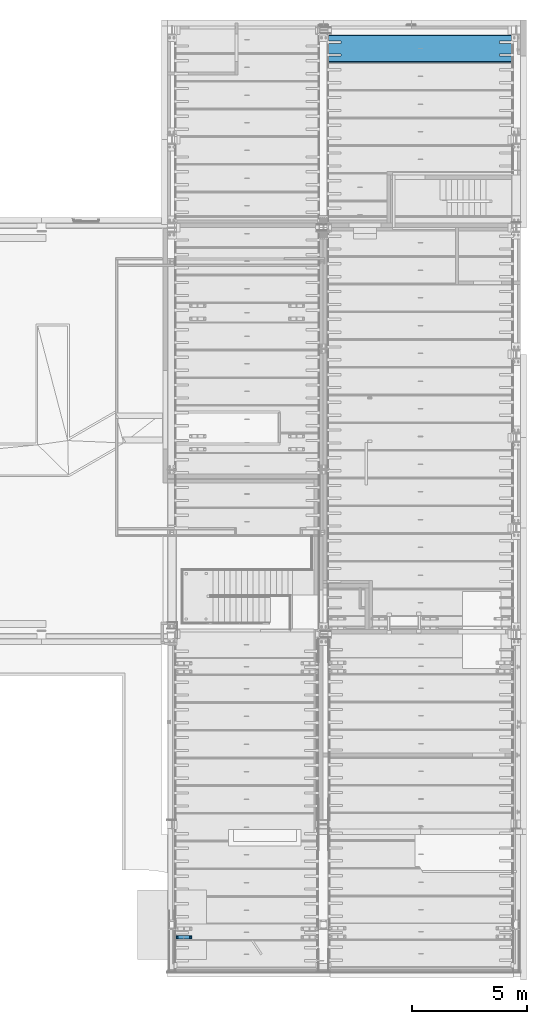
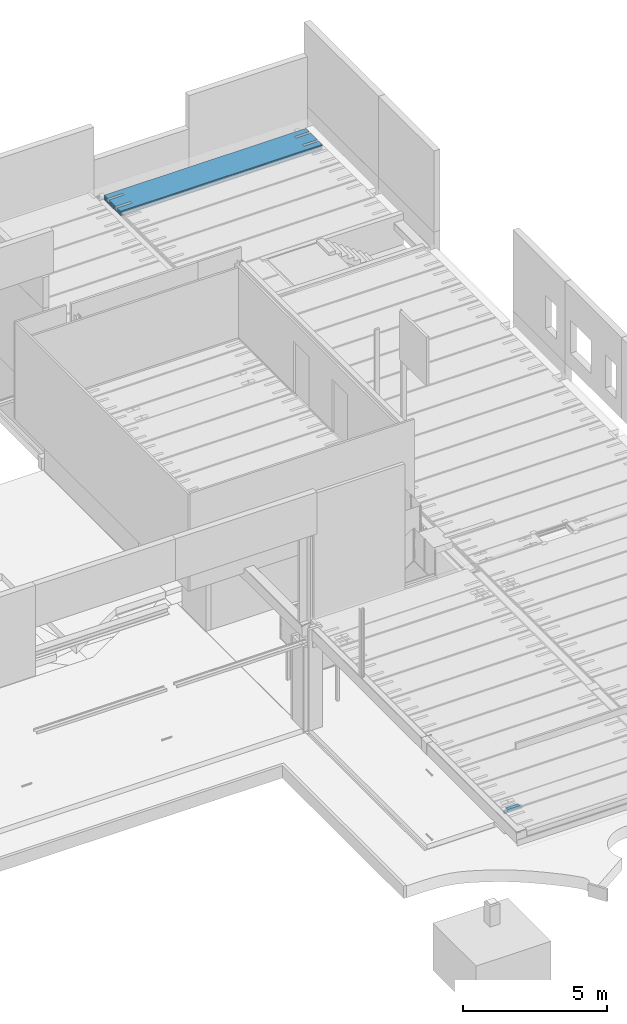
# One storey, part 138 of 230: 2 beams.
"""IFC4X3_ADD2 building model written with IfcOpenShell, lengths in millimetres."""

from ifc_helpers import new_model, si_unit, direction, origin_with_axes, place, context, subcontext, project, spatial, polygons, element, save


model = new_model("IFC4X3_ADD2")

# Units and contexts
model_context = context("Model", 3, precision=1e-05, world=origin_with_axes(), true_north=direction((0.0, 1.0)))
body_context = subcontext(model_context, "Body", "Model", "MODEL_VIEW")
ifc_project = project(units=[si_unit("LENGTHUNIT", "METRE", prefix="MILLI"), si_unit("AREAUNIT", "SQUARE_METRE"), si_unit("VOLUMEUNIT", "CUBIC_METRE"), si_unit("PLANEANGLEUNIT", "RADIAN"), si_unit("TIMEUNIT", "SECOND"), si_unit("MASSUNIT", "GRAM")], contexts=[model_context])

# Site, building, storey
site_placement = place(None, origin_with_axes())
site = spatial("IfcSite", under=ifc_project, at=site_placement, Name="Site", CompositionType="ELEMENT")
building_placement = place(site_placement, origin_with_axes())
building = spatial("IfcBuilding", under=site, at=building_placement, Name="IFC Building Story")
storey_placement = place(building_placement, origin_with_axes())
storey = spatial("IfcBuildingStorey", under=building, at=storey_placement, Name="ETAGE 00 (0)", Elevation=0.0)

# Beams
beam_1_placement = place(storey_placement, origin_with_axes())
element("IfcBeam", 1, at=beam_1_placement, inside=storey, Name="HOLLOWCORE SLAB", ObjectType="EB_SP200", context=body_context, shape_type="Tessellation", body=[
    polygons([(40131.189, 26149.0006103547, 3999.9999909), (40131.189, 24971.00061035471, 3999.9999909), (40131.189, 24960.0006103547, 4012.9999909), (40131.189, 24960.0006103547, 4029.9999909), (40131.189, 24980.0006103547, 4044.9999909), (40131.189, 24981.45062256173, 4119.9999909), (40131.189, 24988.98323183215, 4128.676139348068), (40131.189, 24991.84054036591, 4139.805000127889), (40131.189, 24989.41924676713, 4151.036789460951), (40131.189, 24982.23059082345, 4159.9999909), (40131.189, 24982.71190651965, 4185.002769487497), (40131.189, 24998.0006103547, 4199.9999909), (40131.189, 25230.0006103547, 4199.9999909), (40131.189, 25230.0006103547, 4155.806158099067), (40131.189, 25225.3211551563, 4152.679446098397), (40131.189, 25209.17158518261, 4128.509906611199), (40131.189, 25203.5006103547, 4099.9999909), (40131.189, 25209.17158518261, 4071.490075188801), (40131.189, 25225.3211551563, 4047.320535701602), (40131.189, 25249.4906946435, 4031.170965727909), (40131.189, 25278.0006103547, 4025.4999909), (40131.189, 25306.5105260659, 4031.170965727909), (40131.189, 25330.68006555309, 4047.320535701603), (40131.189, 25346.82963552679, 4071.490075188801), (40131.189, 25352.50061035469, 4099.9999909), (40131.189, 25346.82963552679, 4128.509906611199), (40131.189, 25330.6800655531, 4152.679446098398), (40131.189, 25330.0006103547, 4153.133443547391), (40131.189, 25330.0006103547, 4199.9999909), (40131.189, 25790.0006103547, 4199.9999909), (40131.189, 25790.0006103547, 4153.133443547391), (40131.189, 25789.3211551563, 4152.679446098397), (40131.189, 25773.17158518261, 4128.509906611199), (40131.189, 25767.5006103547, 4099.9999909), (40131.189, 25773.1715851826, 4071.490075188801), (40131.189, 25789.3211551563, 4047.320535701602), (40131.189, 25813.4906946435, 4031.170965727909), (40131.189, 25842.0006103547, 4025.4999909), (40131.189, 25870.51052606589, 4031.170965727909), (40131.189, 25894.68006555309, 4047.320535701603), (40131.189, 25910.82963552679, 4071.490075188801), (40131.189, 25916.5006103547, 4099.9999909), (40131.189, 25910.82963552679, 4128.509906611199), (40131.189, 25894.6800655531, 4152.679446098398), (40131.189, 25890.0006103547, 4155.806158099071), (40131.189, 25890.0006103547, 4199.9999909), (40131.189, 26122.0006103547, 4199.9999909), (40131.189, 26137.28931418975, 4185.002769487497), (40131.189, 26137.77062988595, 4159.9999909), (40131.189, 26130.58197394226, 4151.036789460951), (40131.189, 26128.16068034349, 4139.805000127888), (40131.189, 26131.01798887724, 4128.676139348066), (40131.189, 26138.55059814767, 4119.9999909), (40131.189, 26140.0006103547, 4044.9999909), (40131.189, 26160.0006103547, 4029.9999909), (40131.189, 26160.0006103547, 4012.9999909), (40131.189, 26082.6800655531, 4152.679446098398), (40131.189, 26058.5105260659, 4168.829016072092), (40131.189, 26030.0006103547, 4174.4999909), (40131.189, 26001.4906946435, 4168.829016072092), (40131.189, 25977.3211551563, 4152.679446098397), (40131.189, 25961.17158518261, 4128.509906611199), (40131.189, 25955.5006103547, 4099.9999909), (40131.189, 25961.1715851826, 4071.490075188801), (40131.189, 25977.3211551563, 4047.320535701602), (40131.189, 26001.4906946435, 4031.170965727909), (40131.189, 26030.0006103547, 4025.4999909), (40131.189, 26058.51052606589, 4031.170965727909), (40131.189, 26082.68006555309, 4047.320535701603), (40131.189, 26098.82963552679, 4071.490075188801), (40131.189, 26104.5006103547, 4099.9999909), (40131.189, 26098.82963552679, 4128.509906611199), (40131.189, 25706.6800655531, 4152.679446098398), (40131.189, 25682.5105260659, 4168.829016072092), (40131.189, 25654.0006103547, 4174.4999909), (40131.189, 25625.49069464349, 4168.829016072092), (40131.189, 25601.3211551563, 4152.679446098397), (40131.189, 25585.17158518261, 4128.509906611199), (40131.189, 25579.5006103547, 4099.9999909), (40131.189, 25585.1715851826, 4071.490075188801), (40131.189, 25601.3211551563, 4047.320535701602), (40131.189, 25625.4906946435, 4031.170965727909), (40131.189, 25654.0006103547, 4025.4999909), (40131.189, 25682.51052606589, 4031.170965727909), (40131.189, 25706.6800655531, 4047.320535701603), (40131.189, 25722.82963552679, 4071.490075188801), (40131.189, 25728.5006103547, 4099.9999909), (40131.189, 25722.82963552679, 4128.509906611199), (40131.189, 25518.68006555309, 4152.679446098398), (40131.189, 25494.5105260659, 4168.829016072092), (40131.189, 25466.0006103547, 4174.4999909), (40131.189, 25437.4906946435, 4168.829016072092), (40131.189, 25413.3211551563, 4152.679446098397), (40131.189, 25397.17158518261, 4128.509906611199), (40131.189, 25391.5006103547, 4099.9999909), (40131.189, 25397.17158518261, 4071.490075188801), (40131.189, 25413.3211551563, 4047.320535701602), (40131.189, 25437.4906946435, 4031.170965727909), (40131.189, 25466.0006103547, 4025.4999909), (40131.189, 25494.5105260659, 4031.170965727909), (40131.189, 25518.68006555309, 4047.320535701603), (40131.189, 25534.82963552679, 4071.490075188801), (40131.189, 25540.5006103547, 4099.9999909), (40131.189, 25534.8296355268, 4128.509906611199), (40131.189, 25142.6800655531, 4152.679446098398), (40131.189, 25118.5105260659, 4168.829016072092), (40131.189, 25090.0006103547, 4174.4999909), (40131.189, 25061.4906946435, 4168.829016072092), (40131.189, 25037.3211551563, 4152.679446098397), (40131.189, 25021.1715851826, 4128.509906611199), (40131.189, 25015.5006103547, 4099.9999909), (40131.189, 25021.1715851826, 4071.490075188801), (40131.189, 25037.3211551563, 4047.320535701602), (40131.189, 25061.4906946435, 4031.170965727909), (40131.189, 25090.0006103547, 4025.4999909), (40131.189, 25118.5105260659, 4031.170965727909), (40131.189, 25142.68006555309, 4047.320535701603), (40131.189, 25158.82963552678, 4071.490075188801), (40131.189, 25164.5006103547, 4099.9999909), (40131.189, 25158.82963552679, 4128.509906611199), (48196.189, 26149.0006103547, 3999.9999909), (48196.189, 26160.0006103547, 4012.9999909), (48196.189, 26160.0006103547, 4029.9999909), (48196.189, 26140.0006103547, 4044.9999909), (48196.189, 26138.55059814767, 4119.9999909), (48196.189, 26131.01798887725, 4128.676139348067), (48196.189, 26128.16068034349, 4139.805000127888), (48196.189, 26130.58197394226, 4151.036789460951), (48196.189, 26137.77062988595, 4159.9999909), (48196.189, 26137.28931418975, 4185.002769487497), (48196.189, 26122.0006103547, 4199.9999909), (48196.189, 25890.0006103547, 4199.9999909), (48196.189, 25890.0006103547, 4155.806158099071), (48196.189, 25894.68006555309, 4152.679446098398), (48196.189, 25910.82963552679, 4128.509906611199), (48196.189, 25916.5006103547, 4099.9999909), (48196.189, 25910.82963552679, 4071.490075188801), (48196.189, 25894.68006555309, 4047.320535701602), (48196.189, 25870.5105260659, 4031.170965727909), (48196.189, 25842.0006103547, 4025.4999909), (48196.189, 25813.4906946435, 4031.170965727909), (48196.189, 25789.3211551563, 4047.320535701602), (48196.189, 25773.17158518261, 4071.490075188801), (48196.189, 25767.5006103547, 4099.9999909), (48196.189, 25773.17158518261, 4128.509906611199), (48196.189, 25789.3211551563, 4152.679446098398), (48196.189, 25790.0006103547, 4153.133443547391), (48196.189, 25790.0006103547, 4199.9999909), (48196.189, 25330.0006103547, 4199.9999909), (48196.189, 25330.0006103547, 4153.133443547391), (48196.189, 25330.6800655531, 4152.679446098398), (48196.189, 25346.82963552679, 4128.509906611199), (48196.189, 25352.50061035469, 4099.9999909), (48196.189, 25346.82963552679, 4071.490075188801), (48196.189, 25330.6800655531, 4047.320535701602), (48196.189, 25306.5105260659, 4031.170965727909), (48196.189, 25278.0006103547, 4025.4999909), (48196.189, 25249.4906946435, 4031.170965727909), (48196.189, 25225.3211551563, 4047.320535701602), (48196.189, 25209.17158518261, 4071.490075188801), (48196.189, 25203.5006103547, 4099.9999909), (48196.189, 25209.17158518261, 4128.509906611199), (48196.189, 25225.3211551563, 4152.679446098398), (48196.189, 25230.0006103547, 4155.806158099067), (48196.189, 25230.0006103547, 4199.9999909), (48196.189, 24998.0006103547, 4199.9999909), (48196.189, 24982.71190651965, 4185.002769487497), (48196.189, 24982.23059082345, 4159.9999909), (48196.189, 24989.41924676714, 4151.036789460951), (48196.189, 24991.84054036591, 4139.805000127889), (48196.189, 24988.98323183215, 4128.676139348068), (48196.189, 24981.45062256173, 4119.9999909), (48196.189, 24980.0006103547, 4044.9999909), (48196.189, 24960.0006103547, 4029.9999909), (48196.189, 24960.0006103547, 4012.9999909), (48196.189, 24971.0006103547, 3999.9999909), (48196.189, 26082.68006555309, 4152.679446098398), (48196.189, 26098.82963552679, 4128.509906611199), (48196.189, 26104.5006103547, 4099.9999909), (48196.189, 26098.82963552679, 4071.490075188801), (48196.189, 26082.68006555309, 4047.320535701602), (48196.189, 26058.5105260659, 4031.170965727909), (48196.189, 26030.0006103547, 4025.4999909), (48196.189, 26001.4906946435, 4031.170965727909), (48196.189, 25977.3211551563, 4047.320535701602), (48196.189, 25961.17158518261, 4071.490075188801), (48196.189, 25955.5006103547, 4099.9999909), (48196.189, 25961.17158518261, 4128.509906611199), (48196.189, 25977.3211551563, 4152.679446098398), (48196.189, 26001.4906946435, 4168.829016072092), (48196.189, 26030.0006103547, 4174.4999909), (48196.189, 26058.5105260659, 4168.829016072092), (48196.189, 25706.6800655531, 4152.679446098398), (48196.189, 25722.82963552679, 4128.509906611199), (48196.189, 25728.5006103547, 4099.9999909), (48196.189, 25722.82963552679, 4071.490075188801), (48196.189, 25706.6800655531, 4047.320535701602), (48196.189, 25682.5105260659, 4031.170965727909), (48196.189, 25654.0006103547, 4025.4999909), (48196.189, 25625.4906946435, 4031.170965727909), (48196.189, 25601.3211551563, 4047.320535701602), (48196.189, 25585.17158518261, 4071.490075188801), (48196.189, 25579.5006103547, 4099.9999909), (48196.189, 25585.17158518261, 4128.509906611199), (48196.189, 25601.3211551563, 4152.679446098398), (48196.189, 25625.4906946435, 4168.829016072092), (48196.189, 25654.0006103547, 4174.4999909), (48196.189, 25682.5105260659, 4168.829016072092), (48196.189, 25518.6800655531, 4152.679446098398), (48196.189, 25534.82963552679, 4128.509906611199), (48196.189, 25540.5006103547, 4099.9999909), (48196.189, 25534.82963552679, 4071.490075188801), (48196.189, 25518.6800655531, 4047.320535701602), (48196.189, 25494.5105260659, 4031.170965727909), (48196.189, 25466.0006103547, 4025.4999909), (48196.189, 25437.4906946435, 4031.170965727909), (48196.189, 25413.3211551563, 4047.320535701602), (48196.189, 25397.17158518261, 4071.490075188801), (48196.189, 25391.5006103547, 4099.9999909), (48196.189, 25397.17158518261, 4128.509906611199), (48196.189, 25413.3211551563, 4152.679446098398), (48196.189, 25437.4906946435, 4168.829016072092), (48196.189, 25466.0006103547, 4174.4999909), (48196.189, 25494.5105260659, 4168.829016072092), (48196.189, 25142.6800655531, 4152.679446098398), (48196.189, 25158.82963552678, 4128.509906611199), (48196.189, 25164.5006103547, 4099.9999909), (48196.189, 25158.82963552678, 4071.490075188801), (48196.189, 25142.6800655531, 4047.320535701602), (48196.189, 25118.5105260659, 4031.170965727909), (48196.189, 25090.0006103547, 4025.4999909), (48196.189, 25061.4906946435, 4031.170965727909), (48196.189, 25037.3211551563, 4047.320535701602), (48196.189, 25021.1715851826, 4071.490075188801), (48196.189, 25015.5006103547, 4099.9999909), (48196.189, 25021.1715851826, 4128.509906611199), (48196.189, 25037.3211551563, 4152.679446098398), (48196.189, 25061.4906946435, 4168.829016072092), (48196.189, 25090.0006103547, 4174.4999909), (48196.189, 25118.5105260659, 4168.829016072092), (40731.189, 25890.0006103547, 4199.9999909), (40731.189, 25790.0006103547, 4199.9999909), (40731.189, 25330.0006103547, 4199.9999909), (40731.189, 25230.0006103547, 4199.9999909), (47596.18900000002, 25230.0006103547, 4199.9999909), (47596.18900000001, 25330.0006103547, 4199.9999909), (47596.18900000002, 25790.0006103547, 4199.9999909), (47596.18900000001, 25890.0006103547, 4199.9999909), (47596.18900000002, 25890.0006103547, 4155.806158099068), (47596.18900000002, 25870.5105260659, 4168.829016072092), (40731.189, 25870.5105260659, 4168.82901607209), (40731.189, 25890.0006103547, 4155.806158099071), (47596.18900000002, 25842.0006103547, 4174.4999909), (40731.189, 25842.0006103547, 4174.499990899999), (47596.18900000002, 25813.4906946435, 4168.829016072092), (40731.189, 25813.49069464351, 4168.829016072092), (40731.189, 25790.0006103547, 4153.133443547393), (47596.18900000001, 25790.0006103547, 4153.133443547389), (47596.18900000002, 25330.0006103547, 4153.13344354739), (47596.18900000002, 25306.5105260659, 4168.829016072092), (40731.189, 25306.5105260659, 4168.829016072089), (40731.189, 25330.0006103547, 4153.13344354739), (47596.18900000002, 25278.0006103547, 4174.4999909), (40731.189, 25278.0006103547, 4174.4999909), (47596.18900000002, 25249.4906946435, 4168.829016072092), (40731.189, 25249.4906946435, 4168.829016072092), (40731.189, 25230.0006103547, 4155.806158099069), (47596.18900000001, 25230.0006103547, 4155.806158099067), (40731.189, 25790.0006103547, 4199.999996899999), (40731.189, 25890.0006103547, 4199.999996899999), (47596.18900000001, 25890.0006103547, 4199.999996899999), (47596.18900000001, 25790.0006103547, 4199.999996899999), (47596.18900000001, 25330.0006103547, 4199.999996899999), (47596.18900000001, 25230.0006103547, 4199.999996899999), (40731.189, 25230.0006103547, 4199.999996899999), (40731.189, 25330.0006103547, 4199.999996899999)], [[[27, 28, 29]], [[92, 93, 26]], [[92, 26, 27]], [[92, 27, 29]], [[29, 91, 92]], [[91, 29, 30]], [[30, 90, 91]], [[30, 89, 90]], [[94, 95, 25]], [[94, 25, 26]], [[26, 93, 94]], [[96, 97, 24]], [[24, 25, 95]], [[24, 95, 96]], [[97, 23, 24]], [[76, 77, 104]], [[76, 104, 89]], [[89, 75, 76]], [[75, 89, 30]], [[30, 74, 75]], [[30, 73, 74]], [[78, 79, 103]], [[78, 103, 104]], [[104, 77, 78]], [[80, 81, 102]], [[102, 103, 79]], [[102, 79, 80]], [[81, 101, 102]], [[88, 73, 30]], [[88, 30, 31]], [[33, 34, 87]], [[33, 87, 88]], [[88, 32, 33]], [[88, 31, 32]], [[35, 36, 86]], [[86, 87, 34]], [[86, 34, 35]], [[36, 85, 86]], [[44, 45, 46]], [[60, 61, 43]], [[60, 43, 44]], [[60, 44, 46]], [[46, 59, 60]], [[46, 47, 59]], [[47, 58, 59]], [[47, 57, 58]], [[62, 63, 42]], [[62, 42, 43]], [[43, 61, 62]], [[64, 65, 41]], [[41, 42, 63]], [[41, 63, 64]], [[50, 51, 72]], [[50, 72, 57]], [[57, 47, 48]], [[57, 48, 49]], [[57, 49, 50]], [[52, 53, 71]], [[52, 71, 72]], [[72, 51, 52]], [[53, 54, 70]], [[53, 70, 71]], [[54, 55, 56]], [[54, 56, 1]], [[1, 69, 70]], [[1, 70, 54]], [[1, 68, 69]], [[1, 67, 68]], [[1, 66, 67]], [[1, 40, 66]], [[40, 41, 65]], [[40, 65, 66]], [[1, 39, 40]], [[1, 38, 39]], [[1, 84, 38]], [[84, 37, 38]], [[84, 85, 36]], [[84, 36, 37]], [[1, 83, 84]], [[1, 100, 83]], [[100, 82, 83]], [[100, 101, 81]], [[100, 81, 82]], [[1, 99, 100]], [[1, 22, 99]], [[22, 98, 99]], [[22, 23, 97]], [[22, 97, 98]], [[1, 21, 22]], [[1, 2, 21]], [[2, 20, 21]], [[2, 19, 20]], [[9, 10, 11]], [[9, 11, 12]], [[109, 110, 8]], [[109, 8, 9]], [[9, 12, 108]], [[9, 108, 109]], [[12, 107, 108]], [[107, 12, 13]], [[13, 106, 107]], [[13, 105, 106]], [[110, 7, 8]], [[112, 113, 5]], [[5, 6, 111]], [[5, 111, 112]], [[6, 7, 110]], [[6, 110, 111]], [[116, 117, 18]], [[116, 18, 19]], [[19, 115, 116]], [[19, 2, 115]], [[2, 114, 115]], [[2, 5, 113]], [[2, 113, 114]], [[2, 3, 4]], [[2, 4, 5]], [[118, 119, 17]], [[118, 17, 18]], [[18, 117, 118]], [[120, 105, 16]], [[16, 17, 119]], [[16, 119, 120]], [[105, 13, 15]], [[105, 15, 16]], [[13, 14, 15]], [[173, 174, 175]], [[173, 175, 176]], [[128, 129, 130]], [[128, 130, 131]], [[128, 131, 177]], [[177, 178, 127]], [[177, 127, 128]], [[178, 126, 127]], [[180, 181, 124]], [[124, 125, 179]], [[124, 179, 180]], [[125, 126, 178]], [[125, 178, 179]], [[192, 177, 131]], [[131, 191, 192]], [[191, 131, 132]], [[132, 190, 191]], [[132, 189, 190]], [[132, 133, 188]], [[132, 188, 189]], [[135, 136, 187]], [[135, 187, 188]], [[188, 134, 135]], [[188, 133, 134]], [[137, 138, 186]], [[186, 187, 136]], [[186, 136, 137]], [[138, 139, 185]], [[138, 185, 186]], [[139, 184, 185]], [[146, 147, 148]], [[148, 193, 145]], [[148, 145, 146]], [[194, 195, 144]], [[194, 144, 145]], [[145, 193, 194]], [[196, 197, 143]], [[143, 144, 195]], [[143, 195, 196]], [[197, 142, 143]], [[208, 193, 148]], [[148, 207, 208]], [[148, 209, 207]], [[209, 206, 207]], [[209, 205, 206]], [[209, 204, 205]], [[210, 211, 203]], [[210, 203, 204]], [[204, 209, 210]], [[212, 213, 202]], [[202, 203, 211]], [[202, 211, 212]], [[213, 201, 202]], [[224, 209, 148]], [[148, 223, 224]], [[148, 149, 223]], [[149, 222, 223]], [[149, 221, 222]], [[149, 150, 220]], [[149, 220, 221]], [[152, 153, 219]], [[152, 219, 220]], [[220, 151, 152]], [[220, 150, 151]], [[154, 155, 218]], [[218, 219, 153]], [[218, 153, 154]], [[155, 217, 218]], [[163, 164, 165]], [[165, 225, 162]], [[165, 162, 163]], [[226, 227, 161]], [[226, 161, 162]], [[162, 225, 226]], [[228, 229, 160]], [[160, 161, 227]], [[160, 227, 228]], [[235, 236, 171]], [[235, 171, 172]], [[172, 173, 234]], [[172, 234, 235]], [[173, 176, 233]], [[173, 233, 234]], [[176, 232, 233]], [[176, 231, 232]], [[176, 230, 231]], [[176, 159, 230]], [[159, 160, 229]], [[159, 229, 230]], [[176, 158, 159]], [[176, 157, 158]], [[176, 216, 157]], [[216, 156, 157]], [[216, 217, 155]], [[216, 155, 156]], [[176, 215, 216]], [[176, 200, 215]], [[200, 214, 215]], [[200, 201, 213]], [[200, 213, 214]], [[176, 199, 200]], [[176, 141, 199]], [[141, 198, 199]], [[141, 142, 197]], [[141, 197, 198]], [[176, 140, 141]], [[176, 183, 140]], [[183, 184, 139]], [[183, 139, 140]], [[176, 121, 183]], [[121, 182, 183]], [[121, 124, 181]], [[121, 181, 182]], [[121, 122, 123]], [[121, 123, 124]], [[236, 170, 171]], [[240, 225, 165]], [[165, 239, 240]], [[165, 166, 239]], [[166, 238, 239]], [[166, 169, 237]], [[166, 237, 238]], [[169, 170, 236]], [[169, 236, 237]], [[166, 167, 168]], [[166, 168, 169]], [[2, 1, 121, 176]], [[3, 2, 176, 175]], [[4, 3, 175, 174]], [[5, 4, 174, 173]], [[6, 5, 173, 172]], [[7, 6, 172, 171]], [[8, 7, 171, 170]], [[9, 8, 170, 169]], [[10, 9, 169, 168]], [[11, 10, 168, 167]], [[12, 11, 167, 166]], [[242, 30, 29]], [[242, 29, 243]], [[244, 13, 12]], [[244, 12, 166]], [[166, 243, 244]], [[242, 243, 166]], [[166, 241, 242]], [[246, 149, 148]], [[246, 148, 247]], [[248, 132, 131]], [[248, 131, 47]], [[47, 247, 248]], [[246, 247, 47]], [[47, 245, 246]], [[47, 241, 166]], [[47, 166, 245]], [[166, 165, 245]], [[47, 46, 241]], [[48, 47, 131, 130]], [[49, 48, 130, 129]], [[50, 49, 129, 128]], [[51, 50, 128, 127]], [[52, 51, 127, 126]], [[53, 52, 126, 125]], [[54, 53, 125, 124]], [[55, 54, 124, 123]], [[56, 55, 123, 122]], [[1, 56, 122, 121]], [[58, 57, 177, 192]], [[59, 58, 192, 191]], [[60, 59, 191, 190]], [[61, 60, 190, 189]], [[62, 61, 189, 188]], [[63, 62, 188, 187]], [[64, 63, 187, 186]], [[65, 64, 186, 185]], [[66, 65, 185, 184]], [[67, 66, 184, 183]], [[68, 67, 183, 182]], [[69, 68, 182, 181]], [[70, 69, 181, 180]], [[71, 70, 180, 179]], [[72, 71, 179, 178]], [[57, 72, 178, 177]], [[252, 45, 44]], [[252, 44, 249]], [[249, 250, 251]], [[249, 251, 252]], [[44, 134, 249]], [[134, 133, 249]], [[251, 250, 253, 254]], [[254, 253, 255, 256]], [[258, 147, 146]], [[258, 146, 257]], [[257, 256, 255]], [[257, 255, 258]], [[146, 32, 257]], [[32, 31, 257]], [[33, 32, 146, 145]], [[34, 33, 145, 144]], [[35, 34, 144, 143]], [[36, 35, 143, 142]], [[37, 36, 142, 141]], [[38, 37, 141, 140]], [[39, 38, 140, 139]], [[40, 39, 139, 138]], [[41, 40, 138, 137]], [[42, 41, 137, 136]], [[43, 42, 136, 135]], [[44, 43, 135, 134]], [[74, 73, 193, 208]], [[75, 74, 208, 207]], [[76, 75, 207, 206]], [[77, 76, 206, 205]], [[78, 77, 205, 204]], [[79, 78, 204, 203]], [[80, 79, 203, 202]], [[81, 80, 202, 201]], [[82, 81, 201, 200]], [[83, 82, 200, 199]], [[84, 83, 199, 198]], [[85, 84, 198, 197]], [[86, 85, 197, 196]], [[87, 86, 196, 195]], [[88, 87, 195, 194]], [[73, 88, 194, 193]], [[90, 89, 209, 224]], [[91, 90, 224, 223]], [[92, 91, 223, 222]], [[93, 92, 222, 221]], [[94, 93, 221, 220]], [[95, 94, 220, 219]], [[96, 95, 219, 218]], [[97, 96, 218, 217]], [[98, 97, 217, 216]], [[99, 98, 216, 215]], [[100, 99, 215, 214]], [[101, 100, 214, 213]], [[102, 101, 213, 212]], [[103, 102, 212, 211]], [[104, 103, 211, 210]], [[89, 104, 210, 209]], [[262, 28, 27]], [[262, 27, 259]], [[259, 260, 261]], [[259, 261, 262]], [[27, 151, 259]], [[151, 150, 259]], [[260, 263, 264, 261]], [[263, 265, 266, 264]], [[268, 164, 163]], [[268, 163, 267]], [[267, 266, 265]], [[267, 265, 268]], [[163, 15, 267]], [[15, 14, 267]], [[16, 15, 163, 162]], [[17, 16, 162, 161]], [[18, 17, 161, 160]], [[19, 18, 160, 159]], [[20, 19, 159, 158]], [[21, 20, 158, 157]], [[22, 21, 157, 156]], [[23, 22, 156, 155]], [[24, 23, 155, 154]], [[25, 24, 154, 153]], [[26, 25, 153, 152]], [[27, 26, 152, 151]], [[106, 105, 225, 240]], [[107, 106, 240, 239]], [[108, 107, 239, 238]], [[109, 108, 238, 237]], [[110, 109, 237, 236]], [[111, 110, 236, 235]], [[112, 111, 235, 234]], [[113, 112, 234, 233]], [[114, 113, 233, 232]], [[115, 114, 232, 231]], [[116, 115, 231, 230]], [[117, 116, 230, 229]], [[118, 117, 229, 228]], [[119, 118, 228, 227]], [[120, 119, 227, 226]], [[105, 120, 226, 225]], [[46, 45, 252, 241]], [[31, 30, 269, 257]], [[256, 257, 242]], [[242, 270, 254]], [[242, 254, 256]], [[270, 251, 254]], [[270, 252, 251]], [[148, 147, 258, 247]], [[133, 132, 271, 249]], [[250, 249, 248]], [[248, 253, 250]], [[248, 272, 255]], [[248, 255, 253]], [[272, 258, 255]], [[165, 164, 268, 245]], [[150, 149, 273, 259]], [[260, 259, 246]], [[246, 274, 263]], [[246, 263, 260]], [[274, 265, 263]], [[274, 268, 265]], [[262, 243, 29, 28]], [[275, 267, 14, 13]], [[266, 267, 244]], [[244, 264, 266]], [[244, 276, 261]], [[244, 261, 264]], [[276, 262, 261]]]),
])
beam_2_placement = place(storey_placement, origin_with_axes())
element("IfcBeam", 2, at=beam_2_placement, inside=storey, Name="ES44", ObjectType="500*149", context=body_context, shape_type="Tessellation", body=[
    polygons([(34265.6922247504, -13001.96122667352, 4119.282009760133), (34165.6922247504, -13002.33491862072, 4117.829005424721), (34265.6922247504, -13004.49975261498, 4099.999990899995), (34265.6922247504, -12994.51864519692, 4137.249990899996), (34165.6922247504, -12995.96622749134, 4134.621865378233), (34165.6922247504, -12972.32057719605, 4161.312288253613), (34265.6922247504, -12982.67920781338, 4152.679446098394), (34265.6922247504, -12967.24975261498, 4164.518883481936), (34165.6922247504, -12956.41781734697, 4169.658700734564), (34265.6922247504, -12949.28177147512, 4171.961464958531), (34165.6922247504, -12985.76380442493, 4149.402627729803), (34165.6922247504, -13004.49975261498, 4099.999987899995), (34165.6922247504, -12938.97973552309, 4173.956801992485), (34265.6922247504, -12929.99975261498, 4174.499990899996), (34165.6922247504, -12921.01976970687, 4173.956801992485), (34265.6922247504, -12910.71773375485, 4171.961464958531), (34265.6922247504, -12892.74975261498, 4164.518883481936), (34165.6922247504, -12903.581687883, 4169.658700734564), (34265.6922247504, -12865.48086003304, 4137.249990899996), (34265.6922247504, -12858.03827855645, 4119.282009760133), (34165.6922247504, -12864.03327773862, 4134.621865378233), (34165.6922247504, -12874.23570080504, 4149.402627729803), (34265.6922247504, -12877.32029741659, 4152.679446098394), (34165.6922247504, -12887.67892803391, 4161.312288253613), (34165.6922247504, -12857.66458660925, 4117.82900542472), (34265.6922247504, -12855.49975261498, 4099.999990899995), (34165.6922247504, -12855.49975261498, 4099.999987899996), (33665.6922247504, -12855.49975261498, 4199.999987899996), (33665.6922247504, -13004.49975261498, 4199.999987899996), (34165.6922247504, -13004.49975261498, 4199.999987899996), (34165.6922247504, -12855.49975261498, 4199.999987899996), (33665.6922247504, -12855.49975261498, 4099.999987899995), (33665.6922247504, -12857.66458660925, 4117.82900542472), (33665.6922247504, -12864.03327773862, 4134.621865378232), (33665.6922247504, -12874.23570080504, 4149.402627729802), (33665.6922247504, -12887.67892803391, 4161.312288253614), (33665.6922247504, -12903.581687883, 4169.658700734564), (33665.6922247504, -12921.01976970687, 4173.956801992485), (33665.6922247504, -12938.97973552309, 4173.956801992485), (33665.6922247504, -12956.41781734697, 4169.658700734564), (33665.6922247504, -12972.32057719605, 4161.312288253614), (33665.6922247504, -12985.76380442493, 4149.402627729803), (33665.6922247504, -12995.96622749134, 4134.621865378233), (33665.6922247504, -13002.33491862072, 4117.829005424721), (33665.6922247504, -13004.49975261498, 4099.999987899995), (33565.6922247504, -12865.48086003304, 4062.749990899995), (33565.6922247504, -12877.32029741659, 4047.320535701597), (33565.6922247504, -12892.74975261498, 4035.481098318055), (33565.6922247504, -12910.71773375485, 4028.03851684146), (33565.6922247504, -12929.99975261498, 4025.499990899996), (33565.6922247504, -12949.28177147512, 4028.03851684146), (33565.6922247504, -12967.24975261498, 4035.481098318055), (33565.6922247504, -12982.67920781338, 4047.320535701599), (33565.6922247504, -12994.51864519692, 4062.749990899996), (33565.6922247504, -13001.96122667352, 4080.717972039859), (33565.6922247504, -13004.49975261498, 4099.999990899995), (33565.6922247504, -13001.96122667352, 4119.282009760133), (33565.6922247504, -12994.51864519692, 4137.249990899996), (33565.6922247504, -12982.67920781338, 4152.679446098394), (33565.6922247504, -12967.24975261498, 4164.518883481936), (33565.6922247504, -12949.28177147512, 4171.961464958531), (33565.6922247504, -12929.99975261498, 4174.499990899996), (33565.6922247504, -12910.71773375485, 4171.961464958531), (33565.6922247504, -12892.74975261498, 4164.518883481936), (33565.6922247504, -12877.32029741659, 4152.679446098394), (33565.6922247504, -12865.48086003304, 4137.249990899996), (33565.6922247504, -12858.03827855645, 4119.282009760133), (33565.6922247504, -12855.49975261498, 4099.999990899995), (33565.6922247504, -12858.03827855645, 4080.717972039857), (34265.6922247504, -12994.51864519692, 4062.749990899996), (34265.6922247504, -12982.67920781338, 4047.320535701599), (34265.6922247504, -12967.24975261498, 4035.481098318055), (34265.6922247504, -12949.28177147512, 4028.03851684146), (34265.6922247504, -12929.99975261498, 4025.499990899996), (34265.6922247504, -12910.71773375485, 4028.03851684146), (34265.6922247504, -12892.74975261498, 4035.481098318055), (34265.6922247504, -12877.32029741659, 4047.320535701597), (34265.6922247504, -12865.48086003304, 4062.749990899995), (34265.6922247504, -12858.03827855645, 4080.717972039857), (34265.6922247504, -13001.96122667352, 4080.717972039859), (33915.6922247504, -12861.17072744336, 4071.490075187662), (33915.6922247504, -12901.48983690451, 4031.170965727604), (33915.6922247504, -12884.64702615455, 4040.89516704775), (33915.6922247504, -12870.89492876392, 4054.647264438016), (33915.6922247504, -12920.27555129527, 4026.137348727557), (33915.6922247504, -12856.68309953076, 4086.774319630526), (33915.6922247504, -12939.72395393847, 4026.137348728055), (33915.6922247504, -12958.50966832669, 4031.170965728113), (33915.6922247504, -13003.31640570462, 4086.774319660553), (33915.6922247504, -12975.35247907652, 4040.895167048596), (33915.6922247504, -12989.10457646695, 4054.647264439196), (33915.6922247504, -12998.82877778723, 4071.490075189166)], [[[1, 2, 3]], [[4, 5, 1]], [[6, 7, 8]], [[9, 8, 10]], [[7, 11, 4]], [[1, 5, 2]], [[2, 12, 3]], [[6, 11, 7]], [[9, 6, 8]], [[10, 13, 9]], [[11, 5, 4]], [[10, 14, 13]], [[15, 14, 16]], [[17, 18, 16]], [[19, 20, 21]], [[22, 23, 19]], [[24, 17, 23]], [[25, 20, 26]], [[16, 18, 15]], [[17, 24, 18]], [[23, 22, 24]], [[19, 21, 22]], [[25, 21, 20]], [[26, 27, 25]], [[14, 15, 13]], [[28, 29, 30, 31]], [[44, 45, 29]], [[29, 43, 44]], [[29, 42, 43]], [[29, 41, 42]], [[29, 40, 41]], [[29, 39, 40]], [[29, 28, 38]], [[29, 38, 39]], [[28, 37, 38]], [[28, 36, 37]], [[28, 35, 36]], [[28, 34, 35]], [[28, 33, 34]], [[28, 32, 33]], [[30, 29, 45, 12]], [[25, 27, 31]], [[31, 21, 25]], [[31, 22, 21]], [[31, 24, 22]], [[31, 18, 24]], [[31, 15, 18]], [[31, 30, 13]], [[31, 13, 15]], [[30, 9, 13]], [[30, 6, 9]], [[30, 11, 6]], [[30, 5, 11]], [[30, 2, 5]], [[30, 12, 2]], [[28, 31, 27, 32]], [[46, 47, 48]], [[46, 48, 49]], [[46, 49, 50]], [[46, 50, 51]], [[46, 51, 52]], [[46, 52, 53]], [[46, 53, 54]], [[46, 54, 55]], [[46, 55, 56]], [[46, 56, 57]], [[46, 57, 58]], [[46, 58, 59]], [[46, 59, 60]], [[46, 60, 61]], [[46, 61, 62]], [[46, 62, 63]], [[46, 63, 64]], [[46, 64, 65]], [[46, 65, 66]], [[46, 66, 67]], [[46, 67, 68]], [[46, 68, 69]], [[70, 71, 72]], [[70, 72, 73]], [[70, 73, 74]], [[70, 74, 75]], [[70, 75, 76]], [[70, 76, 77]], [[70, 77, 78]], [[70, 78, 79]], [[70, 79, 26]], [[70, 26, 20]], [[70, 20, 19]], [[70, 19, 23]], [[70, 23, 17]], [[70, 17, 16]], [[70, 16, 14]], [[70, 14, 10]], [[70, 10, 8]], [[70, 8, 7]], [[70, 7, 4]], [[70, 4, 1]], [[70, 1, 3]], [[70, 3, 80]], [[43, 57, 44]], [[42, 58, 43]], [[40, 60, 41]], [[42, 41, 59]], [[61, 40, 39]], [[44, 56, 45]], [[44, 57, 56]], [[58, 42, 59]], [[41, 60, 59]], [[57, 43, 58]], [[40, 61, 60]], [[39, 62, 61]], [[37, 36, 64]], [[38, 37, 63]], [[35, 34, 66]], [[33, 32, 68]], [[34, 33, 67]], [[36, 35, 65]], [[37, 64, 63]], [[63, 62, 38]], [[64, 36, 65]], [[35, 66, 65]], [[67, 66, 34]], [[67, 33, 68]], [[38, 62, 39]], [[27, 26, 79]], [[78, 81, 79]], [[76, 75, 82]], [[83, 77, 76]], [[84, 78, 77]], [[85, 75, 74]], [[27, 86, 32]], [[86, 81, 69]], [[84, 83, 47]], [[69, 68, 32]], [[81, 86, 79]], [[83, 76, 82]], [[81, 84, 46]], [[46, 69, 81]], [[82, 85, 49]], [[47, 46, 84]], [[47, 83, 48]], [[85, 74, 87]], [[49, 48, 82]], [[84, 77, 83]], [[50, 49, 85]], [[83, 82, 48]], [[72, 88, 73]], [[12, 89, 80]], [[27, 79, 86]], [[71, 90, 72]], [[80, 3, 12]], [[87, 50, 85]], [[71, 70, 91]], [[80, 92, 70]], [[82, 75, 85]], [[88, 87, 73]], [[32, 86, 69]], [[89, 12, 45]], [[87, 88, 51]], [[88, 52, 51]], [[88, 90, 52]], [[52, 90, 53]], [[51, 50, 87]], [[90, 71, 91]], [[55, 54, 92]], [[53, 91, 54]], [[92, 80, 89]], [[56, 55, 45]], [[81, 78, 84]], [[90, 91, 53]], [[55, 92, 89]], [[91, 70, 92]], [[91, 92, 54]], [[87, 74, 73]], [[45, 55, 89]], [[88, 72, 90]]]),
])

save(model, "model.ifc")
